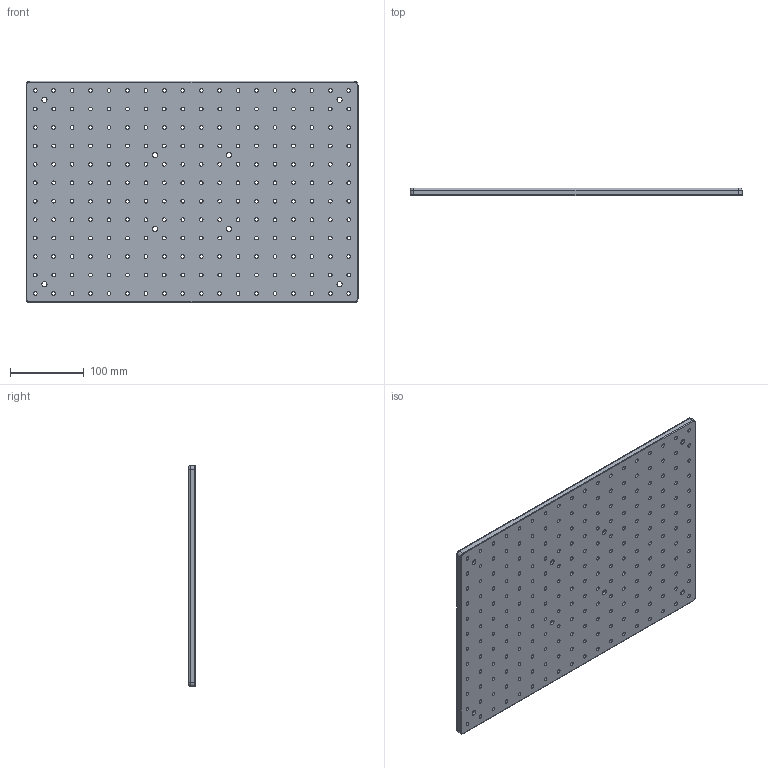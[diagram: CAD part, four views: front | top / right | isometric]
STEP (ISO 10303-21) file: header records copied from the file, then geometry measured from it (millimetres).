
FILE_DESCRIPTION (( 'STEP AP203' ), '1' );
FILE_NAME ('M-SAB-3045-10.step', '2017-01-10T01:16:01', ( '¦K¬P' ), ( '' ), 'SwSTEP 2.0', 'SolidWorks 2012', '' );
FILE_SCHEMA (( 'CONFIG_CONTROL_DESIGN' ));
Length unit declared in the file: millimetre
Products named in the file (1): M-SAB-3045-10
Bounding box: 450 x 10 x 300 mm (x, y, z)
Volume: 1298207.7 mm3; surface area: 309540.1 mm2
Topology: 1 solids, 1 shells, 266 faces, 752 edges, 496 vertices
Faces by surface type: cylinder 244, plane 14, torus 8
Full cylindrical faces by diameter (mm): 5 x216, 7 x8, 11 x8
Entity records: 8717 total; most frequent: DIRECTION 1550, CARTESIAN_POINT 1283, ORIENTED_EDGE 1040, EDGE_LOOP 954, AXIS2_PLACEMENT_3D 763, EDGE_CURVE 520, FACE_OUTER_BOUND 498, VERTEX_POINT 496
